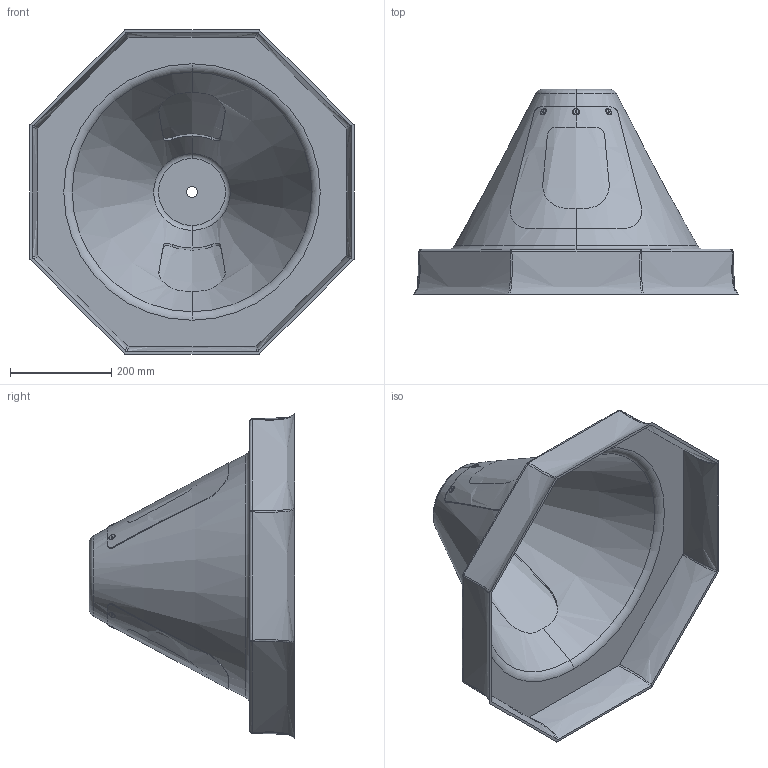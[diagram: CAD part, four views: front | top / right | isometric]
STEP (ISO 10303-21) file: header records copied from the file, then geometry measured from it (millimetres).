
FILE_DESCRIPTION (( 'STEP AP214' ), '1' );
FILE_NAME ('0000002126.STEP', '2015-05-04T06:46:29', ( 'HP' ), ( 'Hewlett-Packard Company' ), 'SwSTEP 2.0', 'SolidWorks 2014', '' );
FILE_SCHEMA (( 'AUTOMOTIVE_DESIGN' ));
Length unit declared in the file: millimetre
Products named in the file (3): 0000002116; 0000002125; 0000002126
Assembly tree (3 placements, depth 2):
  0000002126
    0000002125
    0000002116  x2
Bounding box: 640 x 405 x 640 mm (x, y, z)
Volume: 2666418.8 mm3; surface area: 1549693.1 mm2
Topology: 9 solids, 9 shells, 153 faces, 384 edges, 240 vertices
Faces by surface type: bspline 40, cylinder 38, plane 33, torus 20, sphere 14, cone 8
Entity records: 8806 total; most frequent: CARTESIAN_POINT 5953, ORIENTED_EDGE 614, DIRECTION 469, EDGE_CURVE 307, AXIS2_PLACEMENT_3D 208, VERTEX_POINT 194, EDGE_LOOP 135, B_SPLINE_CURVE_WITH_KNOTS 134
